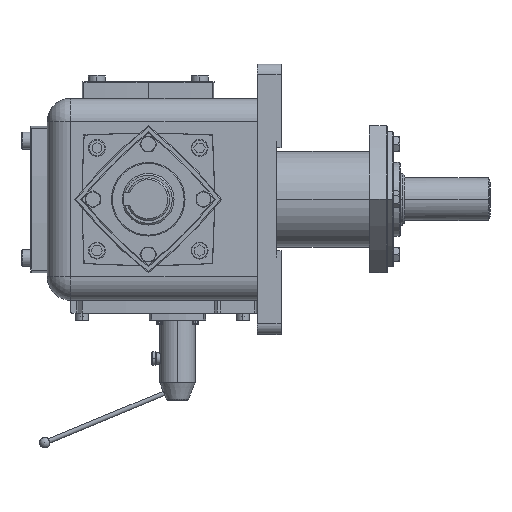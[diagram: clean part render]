
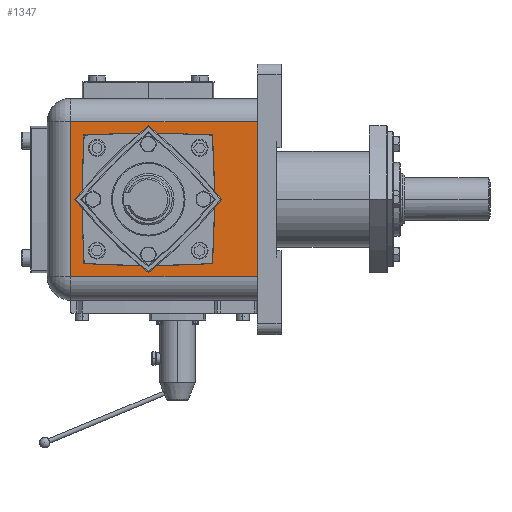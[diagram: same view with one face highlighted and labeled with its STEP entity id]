
A CAD part, left-side view. The second image highlights one B-rep face of the part: STEP entity #1347.
In plain terms, the highlighted planar face has unit normal (-1, 0, 0).
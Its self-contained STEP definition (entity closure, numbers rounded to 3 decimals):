
#690 = EDGE_CURVE ( 'NONE', #7863, #3783, #16228, .T. ) ;
#1085 = VECTOR ( 'NONE', #6520, 1000. ) ;
#1310 = CARTESIAN_POINT ( 'NONE',  ( -106.4, 0., -69.75 ) ) ;
#1347 = ADVANCED_FACE ( 'NONE', ( #21156, #11093 ), #2820, .T. ) ;
#1814 = CARTESIAN_POINT ( 'NONE',  ( -106.4, 0., -1078.766 ) ) ;
#2138 = VERTEX_POINT ( 'NONE', #22384 ) ;
#2487 = DIRECTION ( 'NONE',  ( 0., 0., 1. ) ) ;
#2650 = DIRECTION ( 'NONE',  ( -1., 0., 0. ) ) ;
#2656 = AXIS2_PLACEMENT_3D ( 'NONE', #3615, #2650, #2487 ) ;
#2820 = PLANE ( 'NONE',  #2656 ) ;
#2856 = ORIENTED_EDGE ( 'NONE', *, *, #7966, .T. ) ;
#3173 = CIRCLE ( 'NONE', #5899, 1148.516 ) ;
#3349 = LINE ( 'NONE', #21001, #17449 ) ;
#3615 = CARTESIAN_POINT ( 'NONE',  ( -106.4, -115., -106.4 ) ) ;
#3634 = CARTESIAN_POINT ( 'NONE',  ( -106.4, 67.75, 67.75 ) ) ;
#3752 = EDGE_CURVE ( 'NONE', #2138, #10865, #3173, .T. ) ;
#3770 = DIRECTION ( 'NONE',  ( 0., 0., 1. ) ) ;
#3783 = VERTEX_POINT ( 'NONE', #9603 ) ;
#3824 = DIRECTION ( 'NONE',  ( 0., 1., 0. ) ) ;
#4777 = CARTESIAN_POINT ( 'NONE',  ( -106.4, 1078.766, 0. ) ) ;
#4884 = AXIS2_PLACEMENT_3D ( 'NONE', #10721, #23916, #12645 ) ;
#5250 = ORIENTED_EDGE ( 'NONE', *, *, #14362, .T. ) ;
#5592 = DIRECTION ( 'NONE',  ( 1., 0., 0. ) ) ;
#5899 = AXIS2_PLACEMENT_3D ( 'NONE', #17107, #5592, #19002 ) ;
#6158 = ORIENTED_EDGE ( 'NONE', *, *, #10001, .T. ) ;
#6232 = CIRCLE ( 'NONE', #23786, 1148.516 ) ;
#6520 = DIRECTION ( 'NONE',  ( 0., 0., -1. ) ) ;
#6716 = DIRECTION ( 'NONE',  ( 0., 0., 1. ) ) ;
#6764 = EDGE_CURVE ( 'NONE', #3783, #22814, #3349, .T. ) ;
#7863 = VERTEX_POINT ( 'NONE', #21382 ) ;
#7966 = EDGE_CURVE ( 'NONE', #13845, #2138, #11435, .T. ) ;
#8044 = CARTESIAN_POINT ( 'NONE',  ( -106.4, -115., -81.835 ) ) ;
#8945 = CIRCLE ( 'NONE', #19840, 1148.516 ) ;
#9603 = CARTESIAN_POINT ( 'NONE',  ( -106.4, -115., 81.835 ) ) ;
#9703 = DIRECTION ( 'NONE',  ( 1., 0., 0. ) ) ;
#9758 = EDGE_CURVE ( 'NONE', #10865, #12708, #8945, .T. ) ;
#10001 = EDGE_CURVE ( 'NONE', #22814, #23609, #21437, .T. ) ;
#10069 = ORIENTED_EDGE ( 'NONE', *, *, #9758, .T. ) ;
#10721 = CARTESIAN_POINT ( 'NONE',  ( -106.4, -1078.766, 0. ) ) ;
#10865 = VERTEX_POINT ( 'NONE', #1310 ) ;
#11093 = FACE_BOUND ( 'NONE', #17675, .T. ) ;
#11138 = VECTOR ( 'NONE', #21502, 1000. ) ;
#11435 = CIRCLE ( 'NONE', #12001, 1148.516 ) ;
#12001 = AXIS2_PLACEMENT_3D ( 'NONE', #4777, #18199, #6716 ) ;
#12645 = DIRECTION ( 'NONE',  ( 0., 0., 1. ) ) ;
#12708 = VERTEX_POINT ( 'NONE', #20274 ) ;
#13322 = LINE ( 'NONE', #8044, #23340 ) ;
#13681 = CARTESIAN_POINT ( 'NONE',  ( -106.4, -115., -106.4 ) ) ;
#13845 = VERTEX_POINT ( 'NONE', #15317 ) ;
#14362 = EDGE_CURVE ( 'NONE', #23609, #7863, #13322, .T. ) ;
#15307 = DIRECTION ( 'NONE',  ( 1., 0., 0. ) ) ;
#15317 = CARTESIAN_POINT ( 'NONE',  ( -106.4, -67.75, 67.75 ) ) ;
#15558 = EDGE_CURVE ( 'NONE', #12708, #17372, #16265, .T. ) ;
#15900 = ORIENTED_EDGE ( 'NONE', *, *, #690, .T. ) ;
#16228 = LINE ( 'NONE', #13681, #11138 ) ;
#16265 = CIRCLE ( 'NONE', #4884, 1148.516 ) ;
#17107 = CARTESIAN_POINT ( 'NONE',  ( -106.4, 0., 1078.766 ) ) ;
#17372 = VERTEX_POINT ( 'NONE', #3634 ) ;
#17449 = VECTOR ( 'NONE', #3824, 1000. ) ;
#17675 = EDGE_LOOP ( 'NONE', ( #2856, #20194, #10069, #22557, #24226 ) ) ;
#17907 = CARTESIAN_POINT ( 'NONE',  ( -106.4, 81.835, -81.835 ) ) ;
#18006 = CARTESIAN_POINT ( 'NONE',  ( -106.4, 81.835, -106.4 ) ) ;
#18199 = DIRECTION ( 'NONE',  ( 1., 0., 0. ) ) ;
#19002 = DIRECTION ( 'NONE',  ( 0., 0., 1. ) ) ;
#19840 = AXIS2_PLACEMENT_3D ( 'NONE', #21038, #9703, #22926 ) ;
#20194 = ORIENTED_EDGE ( 'NONE', *, *, #3752, .T. ) ;
#20274 = CARTESIAN_POINT ( 'NONE',  ( -106.4, 67.75, -67.75 ) ) ;
#21001 = CARTESIAN_POINT ( 'NONE',  ( -106.4, -115., 81.835 ) ) ;
#21038 = CARTESIAN_POINT ( 'NONE',  ( -106.4, 0., 1078.766 ) ) ;
#21156 = FACE_OUTER_BOUND ( 'NONE', #21371, .T. ) ;
#21340 = DIRECTION ( 'NONE',  ( 0., -1., 0. ) ) ;
#21371 = EDGE_LOOP ( 'NONE', ( #6158, #5250, #15900, #21819 ) ) ;
#21382 = CARTESIAN_POINT ( 'NONE',  ( -106.4, -115., -81.835 ) ) ;
#21437 = LINE ( 'NONE', #18006, #1085 ) ;
#21502 = DIRECTION ( 'NONE',  ( 0., 0., 1. ) ) ;
#21819 = ORIENTED_EDGE ( 'NONE', *, *, #6764, .T. ) ;
#22384 = CARTESIAN_POINT ( 'NONE',  ( -106.4, -67.75, -67.75 ) ) ;
#22557 = ORIENTED_EDGE ( 'NONE', *, *, #15558, .T. ) ;
#22750 = EDGE_CURVE ( 'NONE', #17372, #13845, #6232, .T. ) ;
#22814 = VERTEX_POINT ( 'NONE', #22920 ) ;
#22920 = CARTESIAN_POINT ( 'NONE',  ( -106.4, 81.835, 81.835 ) ) ;
#22926 = DIRECTION ( 'NONE',  ( 0., 0., 1. ) ) ;
#23340 = VECTOR ( 'NONE', #21340, 1000. ) ;
#23609 = VERTEX_POINT ( 'NONE', #17907 ) ;
#23786 = AXIS2_PLACEMENT_3D ( 'NONE', #1814, #15307, #3770 ) ;
#23916 = DIRECTION ( 'NONE',  ( 1., 0., 0. ) ) ;
#24226 = ORIENTED_EDGE ( 'NONE', *, *, #22750, .T. ) ;
